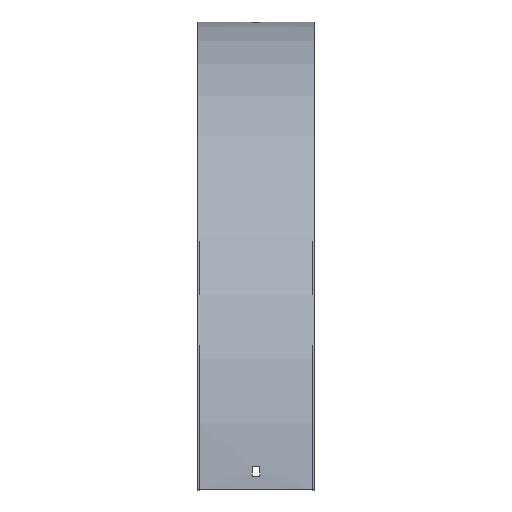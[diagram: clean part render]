
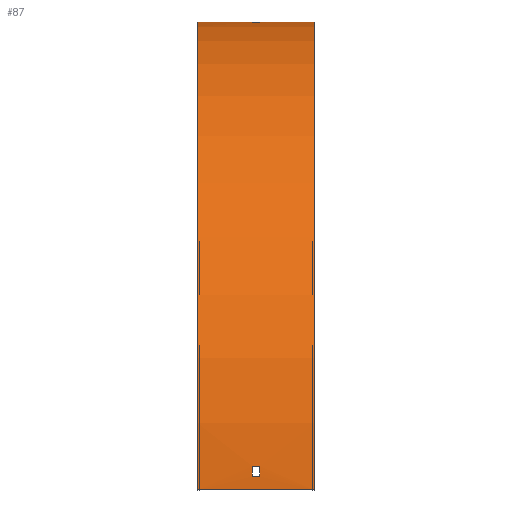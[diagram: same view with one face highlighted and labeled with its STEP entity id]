
A CAD part, top view. The second image highlights one B-rep face of the part: STEP entity #87.
In plain terms, the highlighted cylindrical face has radius 414 mm (diameter 828 mm), a partial arc.
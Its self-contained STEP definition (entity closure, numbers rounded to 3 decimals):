
#7 = VERTEX_POINT ( 'NONE', #262 ) ;
#8 = CARTESIAN_POINT ( 'NONE',  ( -3.25, -414., 0. ) ) ;
#18 = VECTOR ( 'NONE', #450, 1000. ) ;
#20 = LINE ( 'NONE', #401, #129 ) ;
#29 = ORIENTED_EDGE ( 'NONE', *, *, #80, .F. ) ;
#30 = AXIS2_PLACEMENT_3D ( 'NONE', #363, #122, #547 ) ;
#38 = CARTESIAN_POINT ( 'NONE',  ( 3.25, -0.174, 12. ) ) ;
#41 = DIRECTION ( 'NONE',  ( 0., 0., -1. ) ) ;
#47 = ORIENTED_EDGE ( 'NONE', *, *, #467, .F. ) ;
#52 = CIRCLE ( 'NONE', #220, 414. ) ;
#61 = CIRCLE ( 'NONE', #218, 414. ) ;
#62 = EDGE_CURVE ( 'NONE', #66, #439, #78, .T. ) ;
#66 = VERTEX_POINT ( 'NONE', #507 ) ;
#78 = LINE ( 'NONE', #362, #196 ) ;
#80 = EDGE_CURVE ( 'NONE', #566, #151, #443, .T. ) ;
#85 = VERTEX_POINT ( 'NONE', #166 ) ;
#87 = ADVANCED_FACE ( 'NONE', ( #398, #253, #546 ), #164, .T. ) ;
#97 = CARTESIAN_POINT ( 'NONE',  ( -3.25, -0.533, 21. ) ) ;
#103 = CARTESIAN_POINT ( 'NONE',  ( 51.5, -414., 414. ) ) ;
#118 = VECTOR ( 'NONE', #400, 1000. ) ;
#122 = DIRECTION ( 'NONE',  ( -1., 0., 0. ) ) ;
#129 = VECTOR ( 'NONE', #585, 1000. ) ;
#130 = ORIENTED_EDGE ( 'NONE', *, *, #208, .F. ) ;
#131 = DIRECTION ( 'NONE',  ( -1., 0., 0. ) ) ;
#143 = ORIENTED_EDGE ( 'NONE', *, *, #172, .T. ) ;
#151 = VERTEX_POINT ( 'NONE', #182 ) ;
#153 = DIRECTION ( 'NONE',  ( 0., 0., -1. ) ) ;
#164 = CYLINDRICAL_SURFACE ( 'NONE', #525, 414. ) ;
#166 = CARTESIAN_POINT ( 'NONE',  ( -51.5, -414., 414. ) ) ;
#172 = EDGE_CURVE ( 'NONE', #439, #7, #228, .T. ) ;
#180 = VERTEX_POINT ( 'NONE', #103 ) ;
#182 = CARTESIAN_POINT ( 'NONE',  ( -3.25, -393., 413.467 ) ) ;
#196 = VECTOR ( 'NONE', #498, 1000. ) ;
#208 = EDGE_CURVE ( 'NONE', #151, #384, #52, .T. ) ;
#215 = ORIENTED_EDGE ( 'NONE', *, *, #540, .T. ) ;
#218 = AXIS2_PLACEMENT_3D ( 'NONE', #275, #508, #41 ) ;
#219 = ORIENTED_EDGE ( 'NONE', *, *, #279, .T. ) ;
#220 = AXIS2_PLACEMENT_3D ( 'NONE', #8, #567, #479 ) ;
#221 = CARTESIAN_POINT ( 'NONE',  ( 51.5, -0.533, 21. ) ) ;
#226 = LINE ( 'NONE', #588, #562 ) ;
#228 = CIRCLE ( 'NONE', #325, 414. ) ;
#247 = EDGE_LOOP ( 'NONE', ( #130, #29, #47, #315 ) ) ;
#248 = CARTESIAN_POINT ( 'NONE',  ( 51.5, 0., 0. ) ) ;
#253 = FACE_BOUND ( 'NONE', #394, .T. ) ;
#256 = CIRCLE ( 'NONE', #477, 414. ) ;
#261 = LINE ( 'NONE', #221, #18 ) ;
#262 = CARTESIAN_POINT ( 'NONE',  ( 3.25, -0.533, 21. ) ) ;
#265 = CARTESIAN_POINT ( 'NONE',  ( 51.5, -414., 0. ) ) ;
#275 = CARTESIAN_POINT ( 'NONE',  ( 51.5, -414., 0. ) ) ;
#279 = EDGE_CURVE ( 'NONE', #529, #85, #256, .T. ) ;
#283 = DIRECTION ( 'NONE',  ( 1., 0., 0. ) ) ;
#287 = ORIENTED_EDGE ( 'NONE', *, *, #62, .T. ) ;
#290 = AXIS2_PLACEMENT_3D ( 'NONE', #313, #131, #545 ) ;
#299 = LINE ( 'NONE', #248, #598 ) ;
#313 = CARTESIAN_POINT ( 'NONE',  ( 3.25, -414., 0. ) ) ;
#315 = ORIENTED_EDGE ( 'NONE', *, *, #556, .F. ) ;
#318 = CARTESIAN_POINT ( 'NONE',  ( 51.5, -393., 413.467 ) ) ;
#323 = CARTESIAN_POINT ( 'NONE',  ( 3.25, -393., 413.467 ) ) ;
#325 = AXIS2_PLACEMENT_3D ( 'NONE', #385, #332, #153 ) ;
#332 = DIRECTION ( 'NONE',  ( 1., 0., 0. ) ) ;
#347 = EDGE_CURVE ( 'NONE', #180, #85, #20, .T. ) ;
#352 = EDGE_LOOP ( 'NONE', ( #219, #392, #441, #485 ) ) ;
#354 = DIRECTION ( 'NONE',  ( -1., 0., 0. ) ) ;
#355 = CARTESIAN_POINT ( 'NONE',  ( -3.25, -402., 413.826 ) ) ;
#362 = CARTESIAN_POINT ( 'NONE',  ( 51.5, -0.174, 12. ) ) ;
#363 = CARTESIAN_POINT ( 'NONE',  ( -3.25, -414., 0. ) ) ;
#370 = CARTESIAN_POINT ( 'NONE',  ( 3.25, -402., 413.826 ) ) ;
#384 = VERTEX_POINT ( 'NONE', #355 ) ;
#385 = CARTESIAN_POINT ( 'NONE',  ( 3.25, -414., 0. ) ) ;
#389 = EDGE_CURVE ( 'NONE', #436, #529, #299, .T. ) ;
#390 = DIRECTION ( 'NONE',  ( 0., 0., -1. ) ) ;
#392 = ORIENTED_EDGE ( 'NONE', *, *, #347, .F. ) ;
#394 = EDGE_LOOP ( 'NONE', ( #215, #513, #287, #143 ) ) ;
#398 = FACE_OUTER_BOUND ( 'NONE', #352, .T. ) ;
#400 = DIRECTION ( 'NONE',  ( -1., 0., 0. ) ) ;
#401 = CARTESIAN_POINT ( 'NONE',  ( 51.5, -414., 414. ) ) ;
#403 = VERTEX_POINT ( 'NONE', #370 ) ;
#416 = DIRECTION ( 'NONE',  ( 1., 0., 0. ) ) ;
#436 = VERTEX_POINT ( 'NONE', #462 ) ;
#439 = VERTEX_POINT ( 'NONE', #38 ) ;
#441 = ORIENTED_EDGE ( 'NONE', *, *, #524, .F. ) ;
#443 = LINE ( 'NONE', #318, #118 ) ;
#450 = DIRECTION ( 'NONE',  ( -1., 0., 0. ) ) ;
#462 = CARTESIAN_POINT ( 'NONE',  ( 51.5, 0., 0. ) ) ;
#467 = EDGE_CURVE ( 'NONE', #403, #566, #551, .T. ) ;
#477 = AXIS2_PLACEMENT_3D ( 'NONE', #604, #283, #390 ) ;
#479 = DIRECTION ( 'NONE',  ( 0., 1., 0. ) ) ;
#485 = ORIENTED_EDGE ( 'NONE', *, *, #389, .T. ) ;
#492 = DIRECTION ( 'NONE',  ( 0., 0., 1. ) ) ;
#498 = DIRECTION ( 'NONE',  ( 1., 0., 0. ) ) ;
#507 = CARTESIAN_POINT ( 'NONE',  ( -3.25, -0.174, 12. ) ) ;
#508 = DIRECTION ( 'NONE',  ( 1., 0., 0. ) ) ;
#513 = ORIENTED_EDGE ( 'NONE', *, *, #559, .T. ) ;
#524 = EDGE_CURVE ( 'NONE', #436, #180, #61, .T. ) ;
#525 = AXIS2_PLACEMENT_3D ( 'NONE', #265, #354, #492 ) ;
#529 = VERTEX_POINT ( 'NONE', #550 ) ;
#540 = EDGE_CURVE ( 'NONE', #7, #601, #261, .T. ) ;
#542 = CIRCLE ( 'NONE', #30, 414. ) ;
#545 = DIRECTION ( 'NONE',  ( 0., 0., 1. ) ) ;
#546 = FACE_BOUND ( 'NONE', #247, .T. ) ;
#547 = DIRECTION ( 'NONE',  ( 0., 0., 1. ) ) ;
#550 = CARTESIAN_POINT ( 'NONE',  ( -51.5, 0., 0. ) ) ;
#551 = CIRCLE ( 'NONE', #290, 414. ) ;
#556 = EDGE_CURVE ( 'NONE', #384, #403, #226, .T. ) ;
#559 = EDGE_CURVE ( 'NONE', #601, #66, #542, .T. ) ;
#562 = VECTOR ( 'NONE', #416, 1000. ) ;
#566 = VERTEX_POINT ( 'NONE', #323 ) ;
#567 = DIRECTION ( 'NONE',  ( 1., 0., 0. ) ) ;
#577 = DIRECTION ( 'NONE',  ( -1., 0., 0. ) ) ;
#585 = DIRECTION ( 'NONE',  ( -1., 0., 0. ) ) ;
#588 = CARTESIAN_POINT ( 'NONE',  ( 51.5, -402., 413.826 ) ) ;
#598 = VECTOR ( 'NONE', #577, 1000. ) ;
#601 = VERTEX_POINT ( 'NONE', #97 ) ;
#604 = CARTESIAN_POINT ( 'NONE',  ( -51.5, -414., 0. ) ) ;
